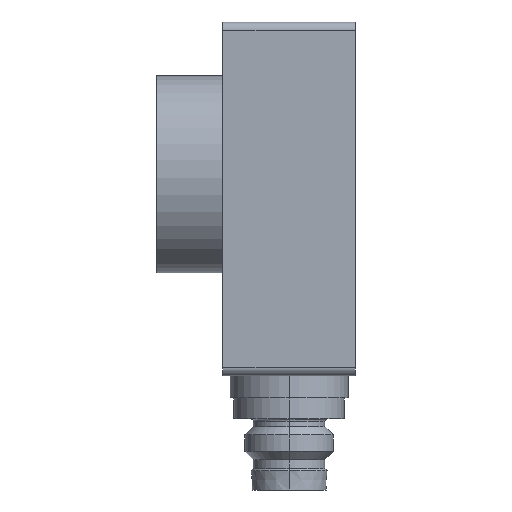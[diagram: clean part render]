
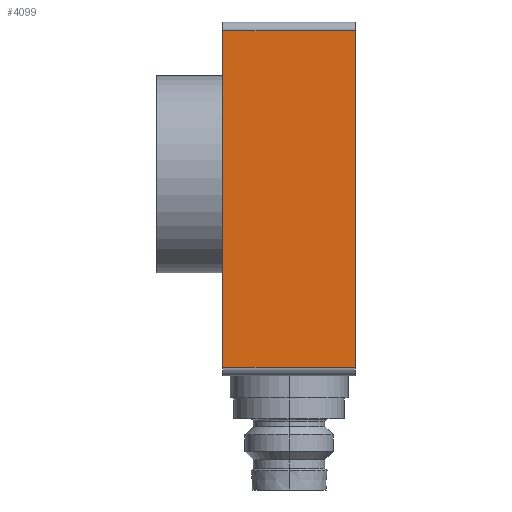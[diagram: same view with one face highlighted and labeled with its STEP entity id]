
A CAD part, left-side view. The second image highlights one B-rep face of the part: STEP entity #4099.
In plain terms, the highlighted planar face has unit normal (-1, 0, 0).
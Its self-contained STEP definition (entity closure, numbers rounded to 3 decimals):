
#6 = VERTEX_POINT ( 'NONE', #6093 ) ;
#304 = CARTESIAN_POINT ( 'NONE',  ( -10.7, -6., 0.8 ) ) ;
#306 = ORIENTED_EDGE ( 'NONE', *, *, #643, .T. ) ;
#425 = LINE ( 'NONE', #1321, #1497 ) ;
#554 = DIRECTION ( 'NONE',  ( 0., 1., 0. ) ) ;
#643 = EDGE_CURVE ( 'NONE', #6, #2290, #2058, .T. ) ;
#661 = AXIS2_PLACEMENT_3D ( 'NONE', #950, #3279, #6200 ) ;
#666 = ORIENTED_EDGE ( 'NONE', *, *, #2672, .F. ) ;
#950 = CARTESIAN_POINT ( 'NONE',  ( -10.7, 0., 31.3 ) ) ;
#1147 = ORIENTED_EDGE ( 'NONE', *, *, #1570, .T. ) ;
#1321 = CARTESIAN_POINT ( 'NONE',  ( -10.7, -6., 31.3 ) ) ;
#1426 = CARTESIAN_POINT ( 'NONE',  ( -10.7, 6., 0.8 ) ) ;
#1474 = LINE ( 'NONE', #4438, #2820 ) ;
#1497 = VECTOR ( 'NONE', #4768, 1000. ) ;
#1570 = EDGE_CURVE ( 'NONE', #4454, #6, #425, .T. ) ;
#1796 = EDGE_CURVE ( 'NONE', #5834, #4454, #1474, .T. ) ;
#2058 = LINE ( 'NONE', #2130, #4516 ) ;
#2130 = CARTESIAN_POINT ( 'NONE',  ( -10.7, 6., 31.3 ) ) ;
#2290 = VERTEX_POINT ( 'NONE', #1426 ) ;
#2369 = EDGE_LOOP ( 'NONE', ( #306, #666, #3600, #1147 ) ) ;
#2672 = EDGE_CURVE ( 'NONE', #5834, #2290, #4384, .T. ) ;
#2820 = VECTOR ( 'NONE', #2907, 1000. ) ;
#2907 = DIRECTION ( 'NONE',  ( 0., 0., 1. ) ) ;
#2998 = CARTESIAN_POINT ( 'NONE',  ( -10.7, -6., 31.3 ) ) ;
#3279 = DIRECTION ( 'NONE',  ( -1., 0., 0. ) ) ;
#3600 = ORIENTED_EDGE ( 'NONE', *, *, #1796, .T. ) ;
#3986 = DIRECTION ( 'NONE',  ( 0., 0., -1. ) ) ;
#4099 = ADVANCED_FACE ( 'NONE', ( #4254 ), #4780, .T. ) ;
#4254 = FACE_OUTER_BOUND ( 'NONE', #2369, .T. ) ;
#4384 = LINE ( 'NONE', #4955, #4771 ) ;
#4438 = CARTESIAN_POINT ( 'NONE',  ( -10.7, -6., 0.8 ) ) ;
#4454 = VERTEX_POINT ( 'NONE', #2998 ) ;
#4516 = VECTOR ( 'NONE', #3986, 1000. ) ;
#4768 = DIRECTION ( 'NONE',  ( 0., 1., 0. ) ) ;
#4771 = VECTOR ( 'NONE', #554, 1000. ) ;
#4780 = PLANE ( 'NONE',  #661 ) ;
#4955 = CARTESIAN_POINT ( 'NONE',  ( -10.7, -6., 0.8 ) ) ;
#5834 = VERTEX_POINT ( 'NONE', #304 ) ;
#6093 = CARTESIAN_POINT ( 'NONE',  ( -10.7, 6., 31.3 ) ) ;
#6200 = DIRECTION ( 'NONE',  ( 0., 0., 1. ) ) ;
